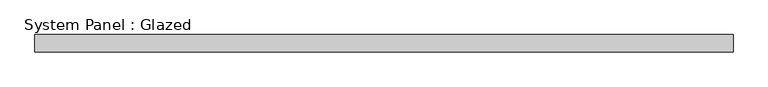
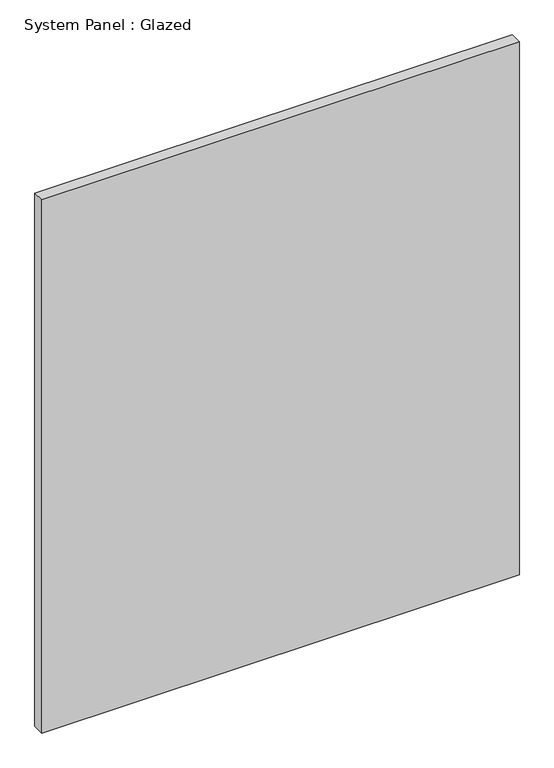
"""IFC4 building model written with IfcOpenShell, lengths in millimetres: plate geometry, System Panel : Glazed."""

from ifc_helpers import new_model, si_unit, origin, origin_with_axes, place, context, project, spatial, polyline, outline, extrude, source, transform, mapped, element, save


def system_panel_glazed_aaf3ec78(model_context):
    return source(origin(), model_context, "Body", "SweptSolid", [
        extrude(outline(polyline([(507.5, -12.5), (-507.5, -12.5), (-507.5, 12.5), (507.5, 12.5), (507.5, -12.5)])), origin_with_axes(), (0.0, 0.0, 1.0), 1197.5),
    ])


if __name__ == "__main__":
    model = new_model("IFC4")
    model_context = context("Model", 3, world=origin())
    ifc_project = project(units=[si_unit("LENGTHUNIT", "METRE", prefix="MILLI")], contexts=[model_context])
    site = spatial("IfcSite", under=ifc_project)
    building = spatial("IfcBuilding", under=site)
    placement = place(None, origin())
    system_panel_glazed_shape = system_panel_glazed_aaf3ec78(model_context)
    element("IfcPlate", 1, ObjectType="System Panel : Glazed", at=placement, inside=building, context=model_context, shape_type="MappedRepresentation", body=[
        mapped(system_panel_glazed_shape, transform((0.0, 0.0, 0.0), x_axis=(1.0, 0.0, 0.0), y_axis=(0.0, 1.0, 0.0), z_axis=(0.0, 0.0, 1.0))),
    ])
    save(model, "model.ifc")
